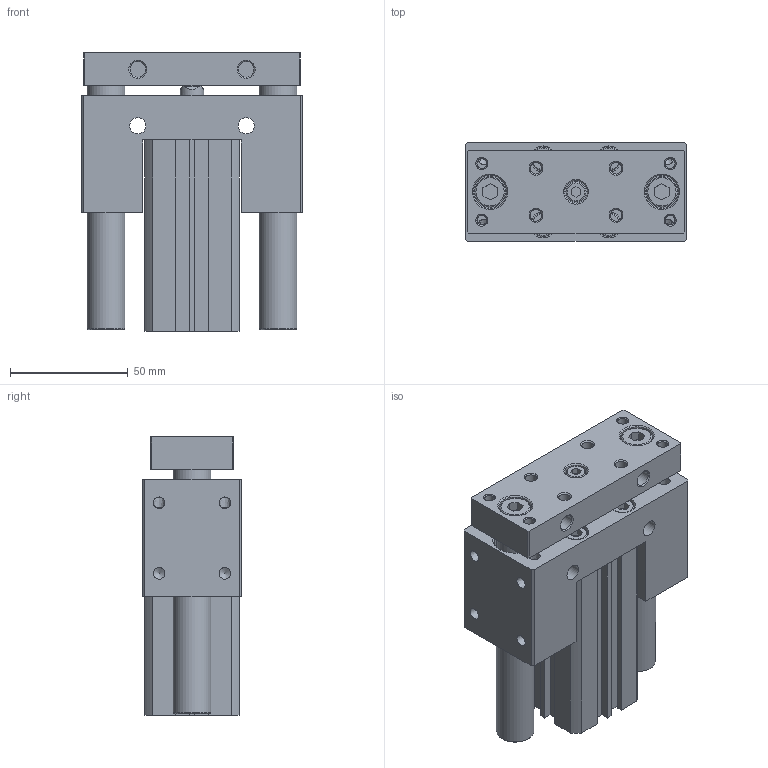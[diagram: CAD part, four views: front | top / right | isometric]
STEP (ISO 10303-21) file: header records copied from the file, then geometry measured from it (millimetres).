
FILE_DESCRIPTION((''),'2;1');
FILE_NAME('I:\3D電子目錄\氣缸\JCB\JCB\JCB25-S\JCB25x50-S.stp','2007-08-21T19:25:50',('Administrator'),(''),'Autodesk Inventor 11','Autodesk Inventor 11','');
FILE_SCHEMA(('AUTOMOTIVE_DESIGN { 1 0 10303 214 1 1 1 1 }'));
Length unit declared in the file: millimetre
Products named in the file (1): JCB25
Bounding box: 94 x 42 x 118.2 mm (x, y, z)
Volume: 296272.5 mm3; surface area: 84518.4 mm2
Topology: 5 solids, 5 shells, 323 faces, 740 edges, 483 vertices
Faces by surface type: plane 172, bspline 61, cylinder 47, cone 35, torus 8
Full cylindrical faces by diameter (mm): 1.5 x2, 4.917 x4, 5.1 x4, 6.647 x2, 8 x8, 8.5 x1, 10 x5, 11 x1, 13 x2, 16 x2, 17 x2, 18 x2, 28 x4, 29.4 x2
Entity records: 8980 total; most frequent: CARTESIAN_POINT 2309, DIRECTION 1332, ORIENTED_EDGE 1160, EDGE_CURVE 580, EDGE_LOOP 544, AXIS2_PLACEMENT_3D 493, VERTEX_POINT 454, VECTOR 346
